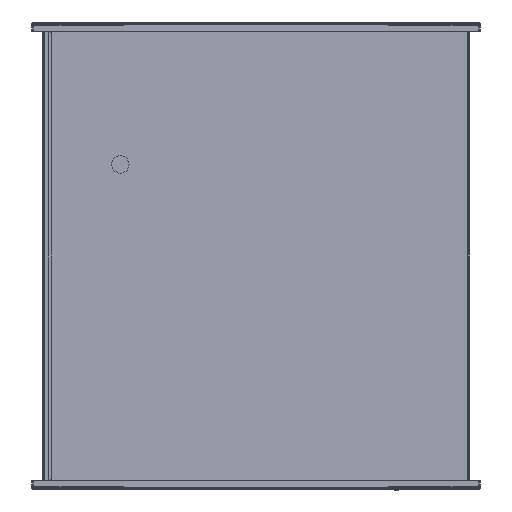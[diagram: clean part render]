
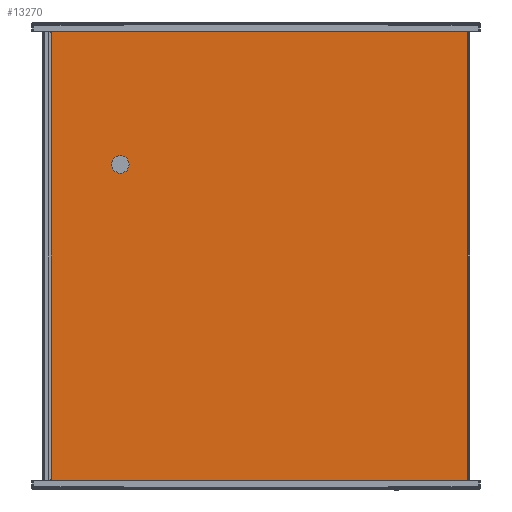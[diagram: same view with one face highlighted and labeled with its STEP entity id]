
A CAD part, left-side view. The second image highlights one B-rep face of the part: STEP entity #13270.
In plain terms, the highlighted planar face has unit normal (-1, 0, 0).
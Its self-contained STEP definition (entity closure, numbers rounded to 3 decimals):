
#621 = FACE_BOUND ( 'NONE', #13606, .T. ) ;
#629 = FACE_OUTER_BOUND ( 'NONE', #13640, .T. ) ;
#1280 = AXIS2_PLACEMENT_3D ( 'NONE', #6224, #6229, #6230 ) ;
#2175 = EDGE_CURVE ( 'NONE', #15128, #15048, #7531, .T. ) ;
#2268 = EDGE_CURVE ( 'NONE', #15048, #12580, #7671, .T. ) ;
#2345 = EDGE_CURVE ( 'NONE', #12523, #15108, #9663, .T. ) ;
#2542 = EDGE_CURVE ( 'NONE', #12580, #15123, #10038, .T. ) ;
#2632 = EDGE_CURVE ( 'NONE', #15123, #15128, #10091, .T. ) ;
#2815 = EDGE_CURVE ( 'NONE', #15108, #12523, #10260, .T. ) ;
#3541 = CARTESIAN_POINT ( 'NONE',  ( -300., 1.3, 199.2 ) ) ;
#3589 = DIRECTION ( 'NONE',  ( 0., 1., 0. ) ) ;
#3744 = CARTESIAN_POINT ( 'NONE',  ( -300., 363.7, 201.5 ) ) ;
#3868 = DIRECTION ( 'NONE',  ( 0., 0., -1. ) ) ;
#4450 = DIRECTION ( 'NONE',  ( 0., -1., 0. ) ) ;
#4451 = DIRECTION ( 'NONE',  ( -1., 0., 0. ) ) ;
#4453 = CARTESIAN_POINT ( 'NONE',  ( -300., 301.3, 79.2 ) ) ;
#5075 = DIRECTION ( 'NONE',  ( -1., 0., 0. ) ) ;
#5118 = CARTESIAN_POINT ( 'NONE',  ( -300., 301.3, 79.2 ) ) ;
#5248 = DIRECTION ( 'NONE',  ( 0., -1., 0. ) ) ;
#5836 = ORIENTED_EDGE ( 'NONE', *, *, #2175, .T. ) ;
#6045 = ORIENTED_EDGE ( 'NONE', *, *, #2632, .T. ) ;
#6224 = CARTESIAN_POINT ( 'NONE',  ( -300., 0., 0. ) ) ;
#6227 = PLANE ( 'NONE',  #1280 ) ;
#6229 = DIRECTION ( 'NONE',  ( -1., 0., 0. ) ) ;
#6230 = DIRECTION ( 'NONE',  ( 0., -1., 0. ) ) ;
#7531 = LINE ( 'NONE', #3541, #7535 ) ;
#7535 = VECTOR ( 'NONE', #3589, 1000. ) ;
#7671 = LINE ( 'NONE', #3744, #7673 ) ;
#7673 = VECTOR ( 'NONE', #3868, 1000. ) ;
#8615 = AXIS2_PLACEMENT_3D ( 'NONE', #4453, #4451, #4450 ) ;
#8890 = AXIS2_PLACEMENT_3D ( 'NONE', #5118, #5075, #5248 ) ;
#9663 = CIRCLE ( 'NONE', #8615, 7.5 ) ;
#10038 = LINE ( 'NONE', #11708, #10041 ) ;
#10041 = VECTOR ( 'NONE', #11707, 1000. ) ;
#10091 = LINE ( 'NONE', #11607, #10094 ) ;
#10094 = VECTOR ( 'NONE', #11611, 1000. ) ;
#10260 = CIRCLE ( 'NONE', #8890, 7.5 ) ;
#10766 = CARTESIAN_POINT ( 'NONE',  ( -300., 363.7, 199.2 ) ) ;
#10826 = CARTESIAN_POINT ( 'NONE',  ( -300., 293.8, 79.2 ) ) ;
#10841 = CARTESIAN_POINT ( 'NONE',  ( -300., 1.3, -199.2 ) ) ;
#10846 = CARTESIAN_POINT ( 'NONE',  ( -300., 1.3, 199.2 ) ) ;
#11607 = CARTESIAN_POINT ( 'NONE',  ( -300., 1.3, 0. ) ) ;
#11611 = DIRECTION ( 'NONE',  ( 0., 0., 1. ) ) ;
#11707 = DIRECTION ( 'NONE',  ( 0., -1., 0. ) ) ;
#11708 = CARTESIAN_POINT ( 'NONE',  ( -300., 363.7, -199.2 ) ) ;
#11874 = ORIENTED_EDGE ( 'NONE', *, *, #2815, .F. ) ;
#11878 = ORIENTED_EDGE ( 'NONE', *, *, #2268, .T. ) ;
#11886 = ORIENTED_EDGE ( 'NONE', *, *, #2345, .F. ) ;
#11971 = ORIENTED_EDGE ( 'NONE', *, *, #2542, .T. ) ;
#12523 = VERTEX_POINT ( 'NONE', #13695 ) ;
#12580 = VERTEX_POINT ( 'NONE', #13752 ) ;
#13270 = ADVANCED_FACE ( 'NONE', ( #621, #629 ), #6227, .T. ) ;
#13606 = EDGE_LOOP ( 'NONE', ( #11874, #11886 ) ) ;
#13640 = EDGE_LOOP ( 'NONE', ( #11878, #11971, #6045, #5836 ) ) ;
#13695 = CARTESIAN_POINT ( 'NONE',  ( -300., 308.8, 79.2 ) ) ;
#13752 = CARTESIAN_POINT ( 'NONE',  ( -300., 363.7, -199.2 ) ) ;
#15048 = VERTEX_POINT ( 'NONE', #10766 ) ;
#15108 = VERTEX_POINT ( 'NONE', #10826 ) ;
#15123 = VERTEX_POINT ( 'NONE', #10841 ) ;
#15128 = VERTEX_POINT ( 'NONE', #10846 ) ;
